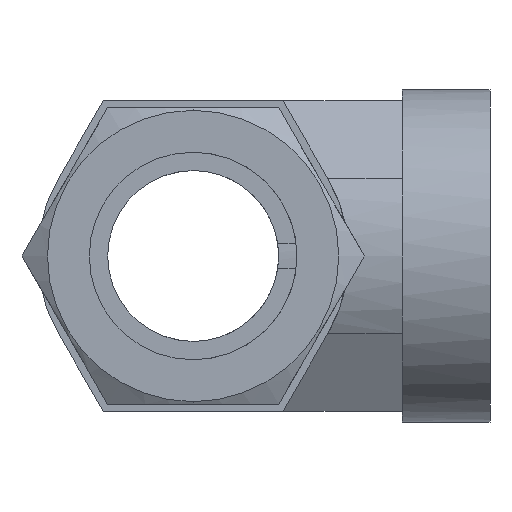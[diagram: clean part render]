
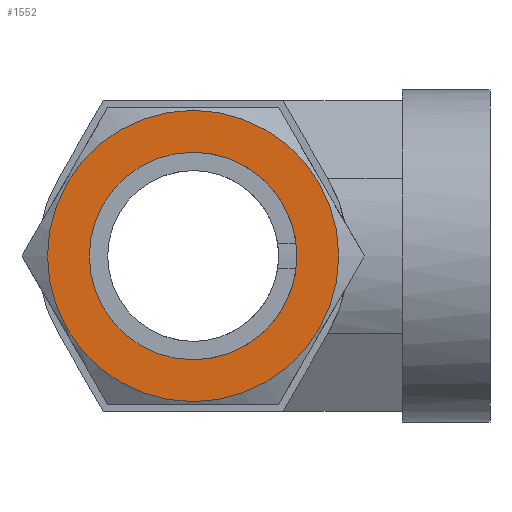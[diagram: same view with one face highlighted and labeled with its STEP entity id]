
A CAD part, left-side view. The second image highlights one B-rep face of the part: STEP entity #1552.
In plain terms, the highlighted planar face has unit normal (-1, 0, 0).
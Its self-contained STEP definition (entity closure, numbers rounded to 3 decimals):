
#104 = CARTESIAN_POINT ( 'NONE',  ( -42.7, -18.331, 0. ) ) ;
#105 = PLANE ( 'NONE',  #161 ) ;
#106 = FACE_OUTER_BOUND ( 'NONE', #1610, .T. ) ;
#107 = FACE_BOUND ( 'NONE', #1553, .T. ) ;
#159 = DIRECTION ( 'NONE',  ( 0., 0., -1. ) ) ;
#160 = DIRECTION ( 'NONE',  ( -1., 0., 0. ) ) ;
#161 = AXIS2_PLACEMENT_3D ( 'NONE', #104, #160, #159 ) ;
#240 = DIRECTION ( 'NONE',  ( 0., 0., -1. ) ) ;
#241 = DIRECTION ( 'NONE',  ( -1., 0., 0. ) ) ;
#242 = CARTESIAN_POINT ( 'NONE',  ( -42.7, 0., 0. ) ) ;
#243 = AXIS2_PLACEMENT_3D ( 'NONE', #242, #241, #240 ) ;
#244 = CIRCLE ( 'NONE', #243, 15.6 ) ;
#245 = DIRECTION ( 'NONE',  ( 0., 0., -1. ) ) ;
#246 = DIRECTION ( 'NONE',  ( -1., 0., 0. ) ) ;
#247 = CARTESIAN_POINT ( 'NONE',  ( -42.7, 0., 0. ) ) ;
#248 = AXIS2_PLACEMENT_3D ( 'NONE', #247, #246, #245 ) ;
#249 = CIRCLE ( 'NONE', #248, 11.115 ) ;
#634 = CIRCLE ( 'NONE', #696, 15.6 ) ;
#639 = CARTESIAN_POINT ( 'NONE',  ( -42.7, 0., -15.6 ) ) ;
#688 = CARTESIAN_POINT ( 'NONE',  ( -42.7, 0., -11.115 ) ) ;
#689 = DIRECTION ( 'NONE',  ( 0., 0., -1. ) ) ;
#690 = DIRECTION ( 'NONE',  ( -1., 0., 0. ) ) ;
#691 = AXIS2_PLACEMENT_3D ( 'NONE', #697, #690, #689 ) ;
#692 = CIRCLE ( 'NONE', #691, 11.115 ) ;
#693 = DIRECTION ( 'NONE',  ( 0., 0., -1. ) ) ;
#694 = DIRECTION ( 'NONE',  ( -1., 0., 0. ) ) ;
#695 = CARTESIAN_POINT ( 'NONE',  ( -42.7, 0., 0. ) ) ;
#696 = AXIS2_PLACEMENT_3D ( 'NONE', #695, #694, #693 ) ;
#697 = CARTESIAN_POINT ( 'NONE',  ( -42.7, 0., 0. ) ) ;
#1029 = VERTEX_POINT ( 'NONE', #2011 ) ;
#1055 = VERTEX_POINT ( 'NONE', #2070 ) ;
#1552 = ADVANCED_FACE ( 'NONE', ( #107, #106 ), #105, .T. ) ;
#1553 = EDGE_LOOP ( 'NONE', ( #1607, #1609 ) ) ;
#1607 = ORIENTED_EDGE ( 'NONE', *, *, #1608, .F. ) ;
#1608 = EDGE_CURVE ( 'NONE', #1875, #1055, #249, .T. ) ;
#1609 = ORIENTED_EDGE ( 'NONE', *, *, #1874, .F. ) ;
#1610 = EDGE_LOOP ( 'NONE', ( #1611, #1612 ) ) ;
#1611 = ORIENTED_EDGE ( 'NONE', *, *, #1873, .T. ) ;
#1612 = ORIENTED_EDGE ( 'NONE', *, *, #1613, .T. ) ;
#1613 = EDGE_CURVE ( 'NONE', #1029, #1870, #244, .T. ) ;
#1870 = VERTEX_POINT ( 'NONE', #639 ) ;
#1873 = EDGE_CURVE ( 'NONE', #1870, #1029, #634, .T. ) ;
#1874 = EDGE_CURVE ( 'NONE', #1055, #1875, #692, .T. ) ;
#1875 = VERTEX_POINT ( 'NONE', #688 ) ;
#2011 = CARTESIAN_POINT ( 'NONE',  ( -42.7, 0., 15.6 ) ) ;
#2070 = CARTESIAN_POINT ( 'NONE',  ( -42.7, 0., 11.115 ) ) ;
